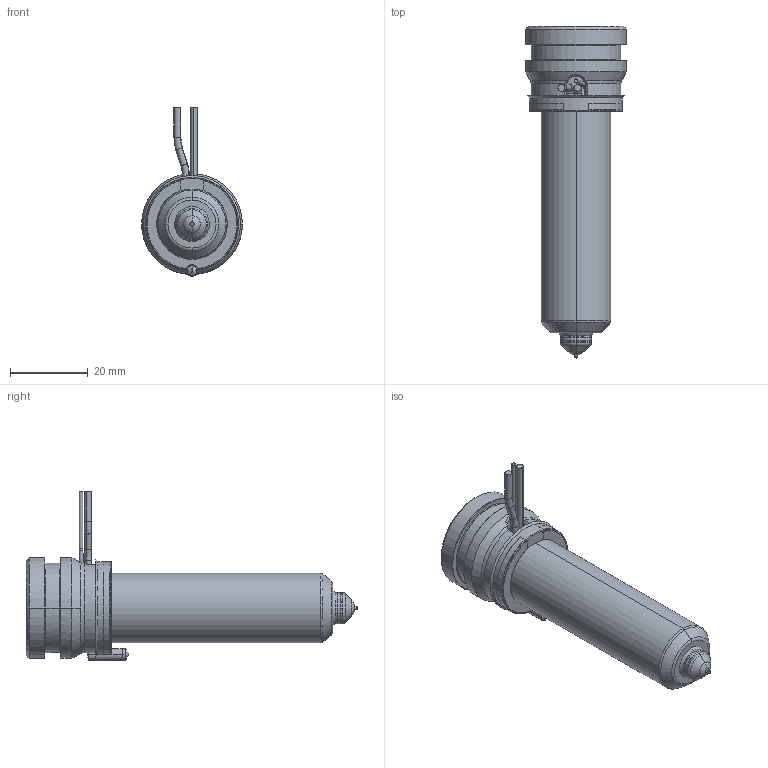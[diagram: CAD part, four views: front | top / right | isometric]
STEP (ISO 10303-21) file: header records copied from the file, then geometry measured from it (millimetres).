
FILE_DESCRIPTION((''),'2;1');
FILE_NAME('MPN-08-24-VX8-066-A','2026-02-05T11:59:34',('UPTIO'),('Thermoplay S.p.A.'),'CREO PARAMETRIC BY PTC INC, 2023494','CREO PARAMETRIC BY PTC INC, 2023494','');
FILE_SCHEMA(('CONFIG_CONTROL_DESIGN','SHAPE_APPEARANCE_LAYERS_GROUPS'));
Length unit declared in the file: millimetre
Products named in the file (1): MPN-08-24-VX8-066-A
Bounding box: 26 x 85.5 x 43.5 mm (x, y, z)
Volume: 17567.1 mm3; surface area: 21495.3 mm2
Topology: 2 solids, 3 shells, 545 faces, 1438 edges, 891 vertices
Faces by surface type: cylinder 180, plane 143, bspline 82, cone 62, torus 62, sphere 10, extrusion 6
Entity records: 29495 total; most frequent: CARTESIAN_POINT 13256, ORIENTED_EDGE 2860, DIRECTION 2578, EDGE_CURVE 1430, AXIS2_PLACEMENT_3D 1007, VERTEX_POINT 891, EDGE_LOOP 573, VECTOR 564
